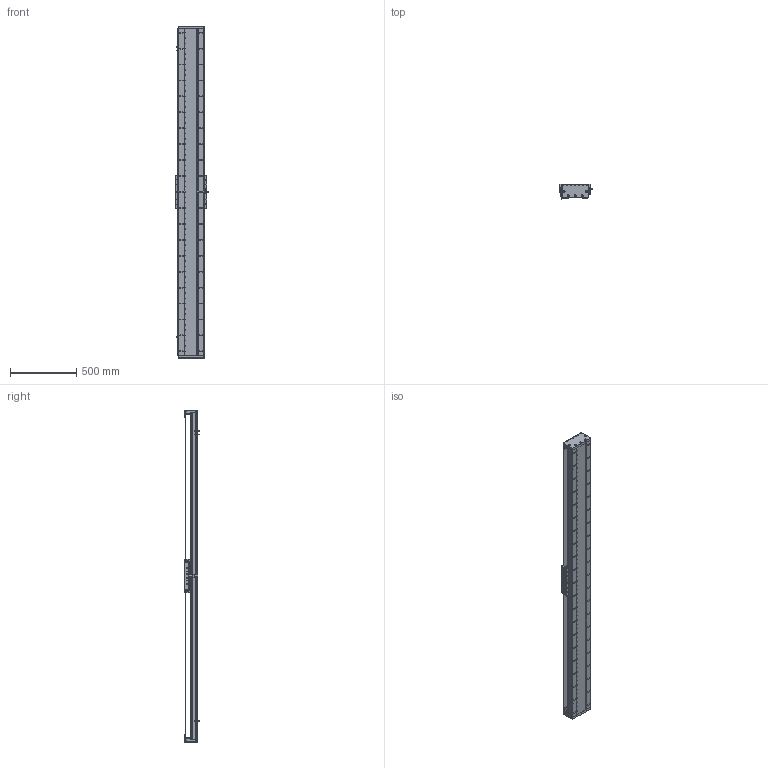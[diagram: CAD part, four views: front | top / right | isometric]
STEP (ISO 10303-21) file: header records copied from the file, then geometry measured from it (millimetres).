
FILE_DESCRIPTION (( 'STEP AP203' ), '1' );
FILE_NAME ('DA-C195-C3-T2160-C010-0.2 眻盄萇儂.STEP', '2025-08-15T01:34:00', ( '' ), ( '' ), 'SwSTEP 2.0', 'SolidWorks 2019', '' );
FILE_SCHEMA (( 'CONFIG_CONTROL_DESIGN' ));
Length unit declared in the file: millimetre
Products named in the file (15): DA95-HXJ-00 遣喳砎蝶; DA195詩湍裔啣; IU-CU195-L 菁釱絳寢; DA165-GYP-00 光电感应片(默认); DA-C195-GD-DB-H-00 傷啣; PM-T45ㄗ侂狟ㄘ; DA195詩湍郪璃; CU195-C3賑輸-俋楷; 葩璃 DA95-GT-T-00; DA-C195-C3-T2160-C010-0.2 眻盄萇儂; IU-CU195-L-00 菁釱(L2460); MS200 棠掑喜S315-T240; LMT黍杅芛; DA195詩湍菜輸; DA195詩湍嶺輸
Assembly tree (29 placements, depth 3):
  DA-C195-C3-T2160-C010-0.2 眻盄萇儂
    DA195詩湍郪璃
      DA195詩湍菜輸  x2
      DA195詩湍裔啣
      DA195詩湍嶺輸  x2
      DA95-HXJ-00 遣喳砎蝶  x8
      DA-C195-GD-DB-H-00 傷啣  x2
    IU-CU195-L 菁釱絳寢
      IU-CU195-L-00 菁釱(L2460)
      葩璃 DA95-GT-T-00  x4
    LMT黍杅芛
    MS200 棠掑喜S315-T240
    PM-T45ㄗ侂狟ㄘ  x3
    DA165-GYP-00 光电感应片(默认)
    CU195-C3賑輸-俋楷
Bounding box: 248 x 115.45 x 2500 mm (x, y, z)
Volume: 14822899 mm3; surface area: 4343233.9 mm2
Topology: 86 solids, 118 shells, 4286 faces, 12015 edges, 7569 vertices
Faces by surface type: cylinder 2322, plane 1362, cone 514, torus 52, sphere 36
Entity records: 137147 total; most frequent: CARTESIAN_POINT 36856, ORIENTED_EDGE 20946, DIRECTION 20206, EDGE_CURVE 10473, AXIS2_PLACEMENT_3D 7585, VERTEX_POINT 6771, VECTOR 5036, LINE 5036
